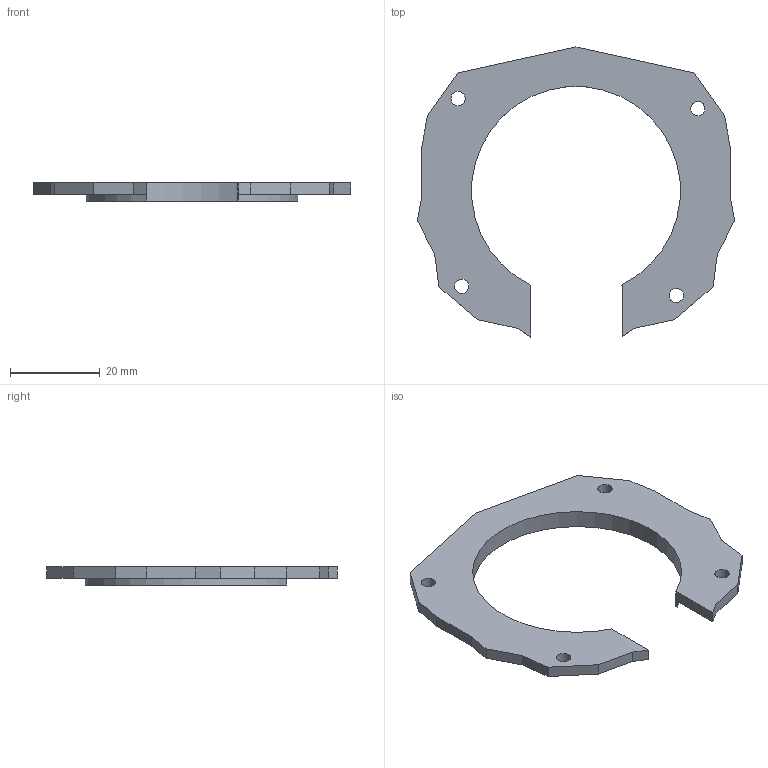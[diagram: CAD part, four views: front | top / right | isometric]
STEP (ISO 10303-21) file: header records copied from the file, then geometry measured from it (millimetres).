
FILE_DESCRIPTION(/* description */ (''),/* implementation_level */ '2;1');
FILE_NAME(/* name */ 'speakerholder.step',/* time_stamp */ '2026-06-10T02:32:19-04:00',/* author */ (''),/* organization */ (''),/* preprocessor_version */ 'ST-DEVELOPER v20.1',/* originating_system */ 'Autodesk Translation Framework v15.8.0.0',/* authorisation */ '');
FILE_SCHEMA (('AUTOMOTIVE_DESIGN { 1 0 10303 214 3 1 1 }'));
Length unit declared in the file: inch
Products named in the file (1): 2026-06-10-02-32-19-343
Bounding box: 70.48 x 64.48 x 4.06 mm (x, y, z)
Volume: 4699.7 mm3; surface area: 5023.7 mm2
Topology: 1 solids, 1 shells, 32 faces, 90 edges, 60 vertices
Faces by surface type: plane 26, cylinder 6
Full cylindrical faces by diameter (mm): 3.175 x4
Entity records: 1084 total; most frequent: CARTESIAN_POINT 183, ORIENTED_EDGE 180, DIRECTION 168, EDGE_CURVE 90, LINE 78, VECTOR 78, VERTEX_POINT 60, AXIS2_PLACEMENT_3D 45
